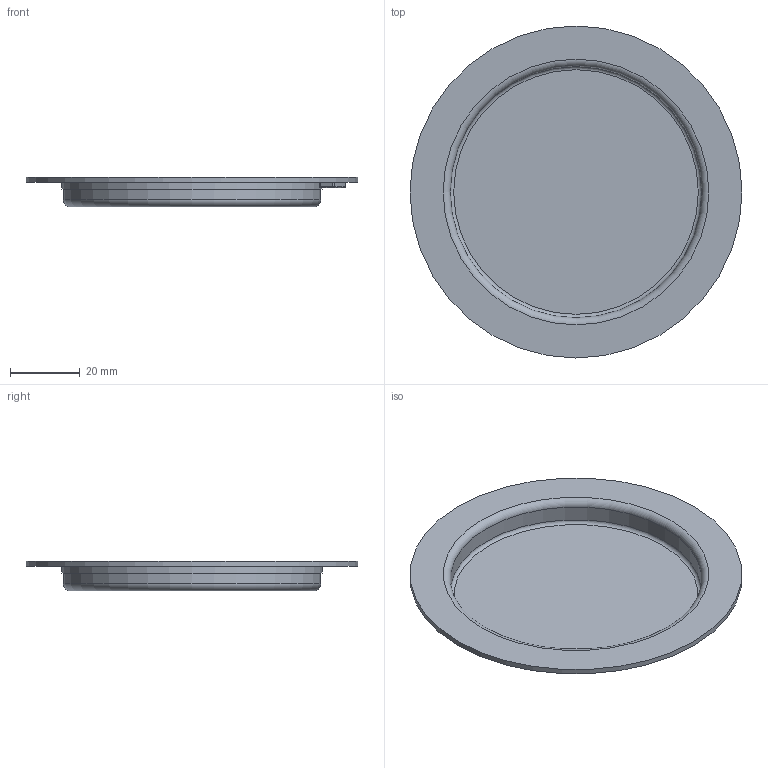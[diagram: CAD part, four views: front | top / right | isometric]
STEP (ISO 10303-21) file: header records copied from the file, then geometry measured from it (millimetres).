
FILE_DESCRIPTION(/* description */ (''),/* implementation_level */ '2;1');
FILE_NAME(/* name */ 'M_Blank_Stencil.step',/* time_stamp */ '2023-10-22T18:04:31+09:00',/* author */ (''),/* organization */ (''),/* preprocessor_version */ 'ST-DEVELOPER v20',/* originating_system */ 'Autodesk Translation Framework v12.14.0.127',/* authorisation */ '');
FILE_SCHEMA (('AUTOMOTIVE_DESIGN { 1 0 10303 214 3 1 1 }'));
Length unit declared in the file: millimetre
Products named in the file (2): 01a_Rv4_80mm_Bodies; Stencil(w/o hole)
Assembly tree (1 placements, depth 2):
  01a_Rv4_80mm_Bodies
    Stencil(w/o hole)
Bounding box: 95 x 95 x 8.5 mm (x, y, z)
Volume: 9785.8 mm3; surface area: 17487.4 mm2
Topology: 1 solids, 1 shells, 29 faces, 54 edges, 31 vertices
Faces by surface type: cylinder 12, plane 8, torus 5, sphere 4
Full cylindrical faces by diameter (mm): 72 x1, 73.6 x1, 74.5 x1, 95 x1
Entity records: 777 total; most frequent: DIRECTION 154, CARTESIAN_POINT 117, ORIENTED_EDGE 108, AXIS2_PLACEMENT_3D 68, EDGE_CURVE 54, CIRCLE 36, EDGE_LOOP 33, VERTEX_POINT 31
